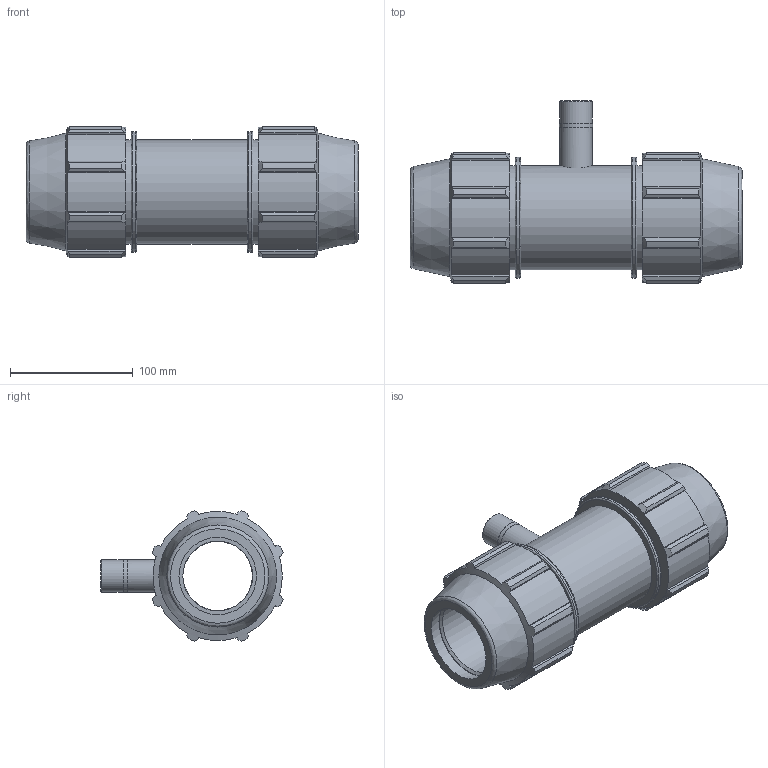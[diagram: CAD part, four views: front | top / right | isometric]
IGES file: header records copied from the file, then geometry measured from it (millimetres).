
Global section: file name: 078100063007_188100063007_0781060630070A.ipt; native system: Autodesk Inventor 2015; preprocessor: unknown; author: Кирилл,,11,0; organization: 20170224.180708; date: 20170606.172411; units: millimetre
Bounding box: 270 x 148.16 x 106.32 mm (x, y, z)
Volume: 1084997 mm3; surface area: 166116.5 mm2
Topology: 1 solids, 1 shells, 154 faces, 433 edges, 293 vertices
Faces by surface type: plane 79, cylinder 40, cone 21, revolution 14
Full cylindrical faces by diameter (mm): 26.441 x2, 26.97 x1, 84.75 x3, 98.31 x2
